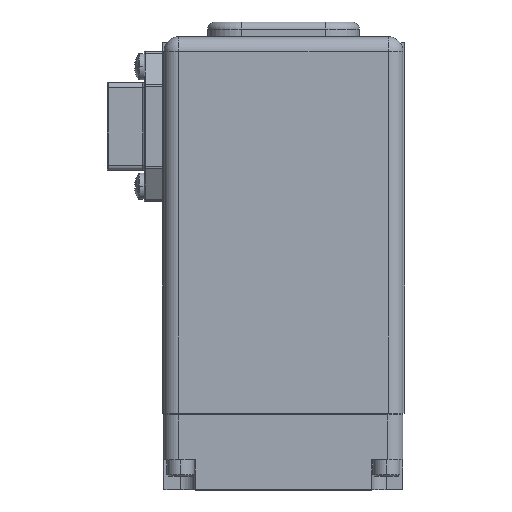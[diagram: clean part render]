
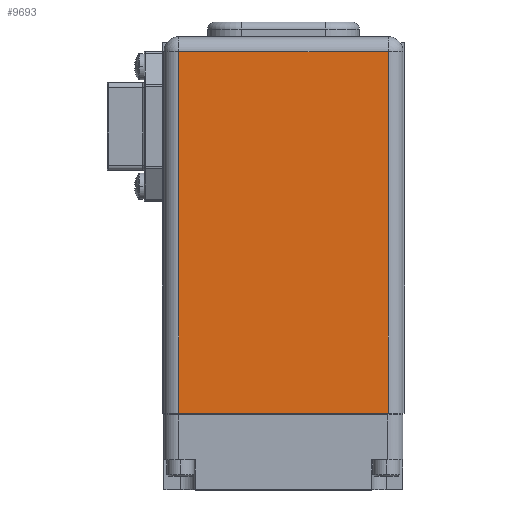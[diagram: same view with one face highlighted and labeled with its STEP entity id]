
A CAD part, top view. The second image highlights one B-rep face of the part: STEP entity #9693.
In plain terms, the highlighted planar face has unit normal (0, 0, 1) as drawn and (0, -1, 0) by its records, which use the part's own axes.
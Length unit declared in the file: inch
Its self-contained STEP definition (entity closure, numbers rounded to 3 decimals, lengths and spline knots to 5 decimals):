
#420 = ORIENTED_EDGE ( 'NONE', *, *, #10293, .T. ) ;
#647 = DIRECTION ( 'NONE',  ( -1., 0., 0. ) ) ;
#1328 = ORIENTED_EDGE ( 'NONE', *, *, #19372, .T. ) ;
#1632 = FACE_OUTER_BOUND ( 'NONE', #15587, .T. ) ;
#2400 = VERTEX_POINT ( 'NONE', #14721 ) ;
#2438 = DIRECTION ( 'NONE',  ( 0., 0., -1. ) ) ;
#3075 = AXIS2_PLACEMENT_3D ( 'NONE', #9095, #10794, #647 ) ;
#4165 = CARTESIAN_POINT ( 'NONE',  ( -0.875, -1., -3.15 ) ) ;
#4244 = VECTOR ( 'NONE', #16694, 39.37008 ) ;
#4301 = EDGE_CURVE ( 'NONE', #6086, #11898, #20792, .T. ) ;
#4692 = ORIENTED_EDGE ( 'NONE', *, *, #18783, .T. ) ;
#5634 = DIRECTION ( 'NONE',  ( 0., 0., 1. ) ) ;
#6086 = VERTEX_POINT ( 'NONE', #14161 ) ;
#7293 = ORIENTED_EDGE ( 'NONE', *, *, #4301, .T. ) ;
#8208 = LINE ( 'NONE', #13591, #12670 ) ;
#8738 = LINE ( 'NONE', #13245, #4244 ) ;
#9095 = CARTESIAN_POINT ( 'NONE',  ( 1., -1., -3.15 ) ) ;
#9477 = VECTOR ( 'NONE', #5634, 39.37008 ) ;
#9693 = ADVANCED_FACE ( 'NONE', ( #1632 ), #20985, .F. ) ;
#10014 = LINE ( 'NONE', #17493, #9477 ) ;
#10293 = EDGE_CURVE ( 'NONE', #2400, #6086, #8738, .T. ) ;
#10794 = DIRECTION ( 'NONE',  ( 0., 1., 0. ) ) ;
#11744 = VECTOR ( 'NONE', #2438, 39.37008 ) ;
#11828 = DIRECTION ( 'NONE',  ( 1., 0., 0. ) ) ;
#11898 = VERTEX_POINT ( 'NONE', #21399 ) ;
#12670 = VECTOR ( 'NONE', #11828, 39.37008 ) ;
#13245 = CARTESIAN_POINT ( 'NONE',  ( 1., -1., 0. ) ) ;
#13591 = CARTESIAN_POINT ( 'NONE',  ( 1., -1., -3.025 ) ) ;
#13678 = CARTESIAN_POINT ( 'NONE',  ( 0.875, -1., -3.025 ) ) ;
#14161 = CARTESIAN_POINT ( 'NONE',  ( -0.875, -1., 0. ) ) ;
#14721 = CARTESIAN_POINT ( 'NONE',  ( 0.875, -1., 0. ) ) ;
#15587 = EDGE_LOOP ( 'NONE', ( #420, #7293, #4692, #1328 ) ) ;
#16694 = DIRECTION ( 'NONE',  ( -1., 0., 0. ) ) ;
#17493 = CARTESIAN_POINT ( 'NONE',  ( 0.875, -1., -3.15 ) ) ;
#18290 = VERTEX_POINT ( 'NONE', #13678 ) ;
#18783 = EDGE_CURVE ( 'NONE', #11898, #18290, #8208, .T. ) ;
#19372 = EDGE_CURVE ( 'NONE', #18290, #2400, #10014, .T. ) ;
#20792 = LINE ( 'NONE', #4165, #11744 ) ;
#20985 = PLANE ( 'NONE',  #3075 ) ;
#21399 = CARTESIAN_POINT ( 'NONE',  ( -0.875, -1., -3.025 ) ) ;
